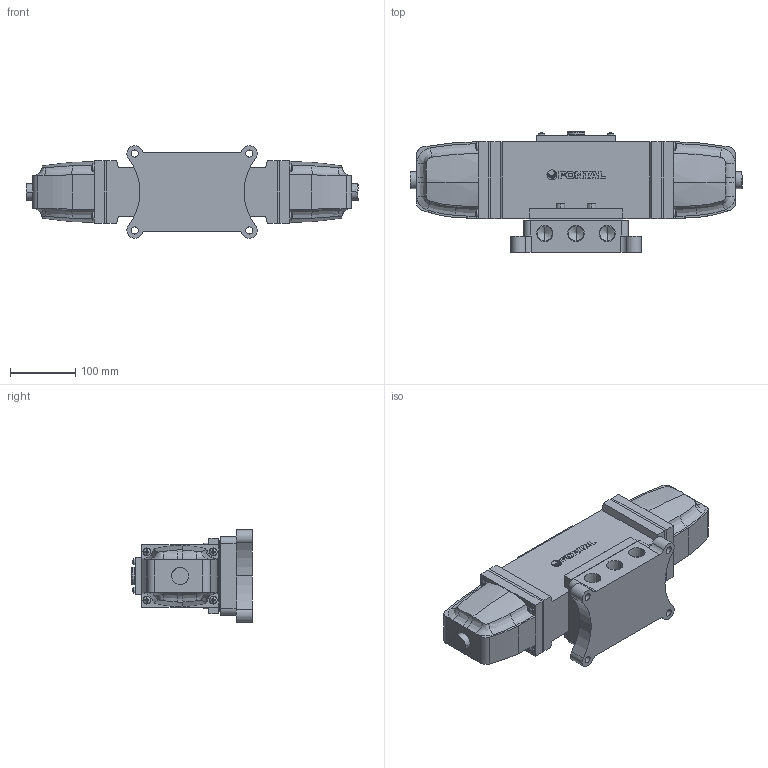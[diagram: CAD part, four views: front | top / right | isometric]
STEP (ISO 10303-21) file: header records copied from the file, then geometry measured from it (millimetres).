
FILE_DESCRIPTION (( 'STEP AP203' ), '1' );
FILE_NAME ('AD(DE)3425-06-##.STEP', '2016-03-09T03:01:04', ( 'Sam Lin' ), ( '' ), 'SwSTEP 2.0', 'SolidWorks 2013', '' );
FILE_SCHEMA (( 'CONFIG_CONTROL_DESIGN' ));
Length unit declared in the file: metre
Products named in the file (12): AS2325-2=34; AS2325-3=34; ISO 7045 - M6 x 20; A25-MARK-2415; AS2425-6=AD; AS2310-4; AS2425-4=34; AS2425-5; AD(DE)3425-06-##; ISO 4762 M8 x 30; AS2425-1=3425; ISO 7045 - M5 x 16
Assembly tree (26 placements, depth 2):
  AD(DE)3425-06-##
    A25-MARK-2415
    AS2310-4
    AS2425-5
    ISO 4762 M8 x 30  x4
    AS2425-1=3425
    ISO 7045 - M5 x 16  x4
    AS2325-2=34  x2
    AS2325-3=34  x2
    ISO 7045 - M6 x 20  x8
    AS2425-6=AD
    AS2425-4=34
Bounding box: 509.8 x 185.5 x 142 mm (x, y, z)
Volume: 5503996 mm3; surface area: 460722.8 mm2
Topology: 32 solids, 32 shells, 854 faces, 2140 edges, 1342 vertices
Faces by surface type: plane 438, cylinder 174, bspline 118, cone 108, torus 16
Entity records: 15682 total; most frequent: CARTESIAN_POINT 5061, ORIENTED_EDGE 1878, DIRECTION 1810, EDGE_CURVE 939, AXIS2_PLACEMENT_3D 648, VERTEX_POINT 611, LINE 514, VECTOR 514
